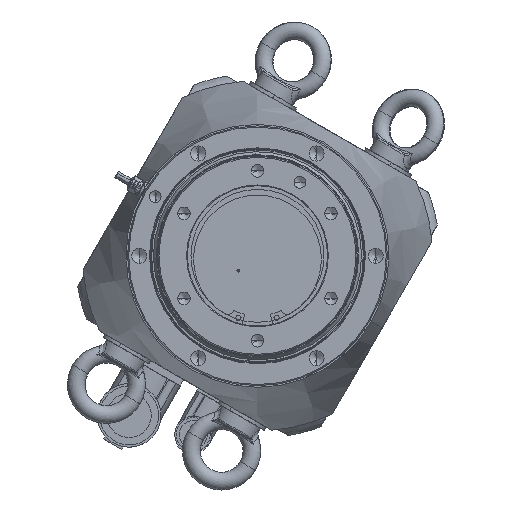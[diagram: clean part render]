
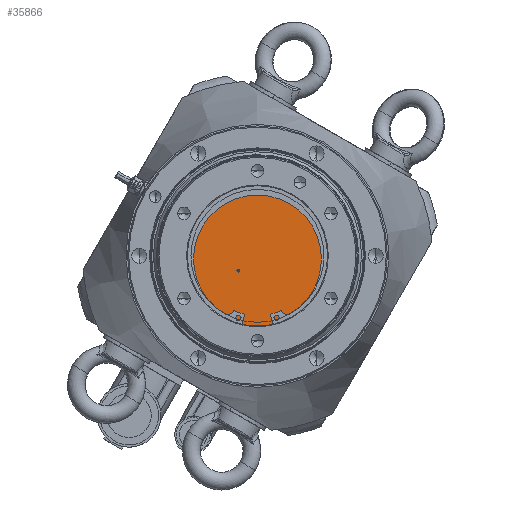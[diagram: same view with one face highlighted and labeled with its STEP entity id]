
A CAD part, front view. The second image highlights one B-rep face of the part: STEP entity #35866.
In plain terms, the highlighted planar face has unit normal (0, -1, 0).
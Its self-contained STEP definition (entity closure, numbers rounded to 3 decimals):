
#2053 = DIRECTION ( 'NONE',  ( 0., 0., 1. ) ) ;
#4031 = ORIENTED_EDGE ( 'NONE', *, *, #56988, .F. ) ;
#4824 = CARTESIAN_POINT ( 'NONE',  ( 0., -49.5, 0. ) ) ;
#5122 = DIRECTION ( 'NONE',  ( 0., 0., 1. ) ) ;
#5703 = CIRCLE ( 'NONE', #40852, 1. ) ;
#6405 = CARTESIAN_POINT ( 'NONE',  ( -12.971, -49.5, -9.993 ) ) ;
#7143 = CARTESIAN_POINT ( 'NONE',  ( 0., -49.5, -47.5 ) ) ;
#7371 = EDGE_CURVE ( 'NONE', #24131, #30044, #24974, .T. ) ;
#7443 = DIRECTION ( 'NONE',  ( 0., 1., 0. ) ) ;
#10336 = DIRECTION ( 'NONE',  ( 0., 0., 1. ) ) ;
#12631 = DIRECTION ( 'NONE',  ( 0., 0., 1. ) ) ;
#13502 = ORIENTED_EDGE ( 'NONE', *, *, #50148, .F. ) ;
#13838 = AXIS2_PLACEMENT_3D ( 'NONE', #42233, #54719, #10336 ) ;
#19045 = CARTESIAN_POINT ( 'NONE',  ( 0., -49.5, 0. ) ) ;
#19392 = AXIS2_PLACEMENT_3D ( 'NONE', #4824, #52382, #12631 ) ;
#19578 = ORIENTED_EDGE ( 'NONE', *, *, #53382, .T. ) ;
#24131 = VERTEX_POINT ( 'NONE', #45948 ) ;
#24974 = CIRCLE ( 'NONE', #28644, 1. ) ;
#27786 = ORIENTED_EDGE ( 'NONE', *, *, #7371, .T. ) ;
#28644 = AXIS2_PLACEMENT_3D ( 'NONE', #6405, #54844, #2053 ) ;
#29388 = EDGE_LOOP ( 'NONE', ( #19578, #27786 ) ) ;
#30044 = VERTEX_POINT ( 'NONE', #35329 ) ;
#33259 = CIRCLE ( 'NONE', #19392, 47.5 ) ;
#33365 = VERTEX_POINT ( 'NONE', #36257 ) ;
#33694 = AXIS2_PLACEMENT_3D ( 'NONE', #19045, #7443, #39003 ) ;
#35329 = CARTESIAN_POINT ( 'NONE',  ( -12.971, -49.5, -10.993 ) ) ;
#35866 = ADVANCED_FACE ( 'NONE', ( #36708, #54711 ), #41667, .F. ) ;
#35902 = VERTEX_POINT ( 'NONE', #7143 ) ;
#36257 = CARTESIAN_POINT ( 'NONE',  ( 0., -49.5, 47.5 ) ) ;
#36708 = FACE_OUTER_BOUND ( 'NONE', #43565, .T. ) ;
#36968 = CARTESIAN_POINT ( 'NONE',  ( -12.971, -49.5, -9.993 ) ) ;
#39003 = DIRECTION ( 'NONE',  ( 0., 0., 1. ) ) ;
#40852 = AXIS2_PLACEMENT_3D ( 'NONE', #36968, #54674, #5122 ) ;
#41667 = PLANE ( 'NONE',  #33694 ) ;
#42233 = CARTESIAN_POINT ( 'NONE',  ( 0., -49.5, 0. ) ) ;
#43565 = EDGE_LOOP ( 'NONE', ( #4031, #13502 ) ) ;
#44385 = CIRCLE ( 'NONE', #13838, 47.5 ) ;
#45948 = CARTESIAN_POINT ( 'NONE',  ( -12.971, -49.5, -8.993 ) ) ;
#50148 = EDGE_CURVE ( 'NONE', #33365, #35902, #44385, .T. ) ;
#52382 = DIRECTION ( 'NONE',  ( 0., 1., 0. ) ) ;
#53382 = EDGE_CURVE ( 'NONE', #30044, #24131, #5703, .T. ) ;
#54674 = DIRECTION ( 'NONE',  ( 0., 1., 0. ) ) ;
#54711 = FACE_BOUND ( 'NONE', #29388, .T. ) ;
#54719 = DIRECTION ( 'NONE',  ( 0., 1., 0. ) ) ;
#54844 = DIRECTION ( 'NONE',  ( 0., 1., 0. ) ) ;
#56988 = EDGE_CURVE ( 'NONE', #35902, #33365, #33259, .T. ) ;
